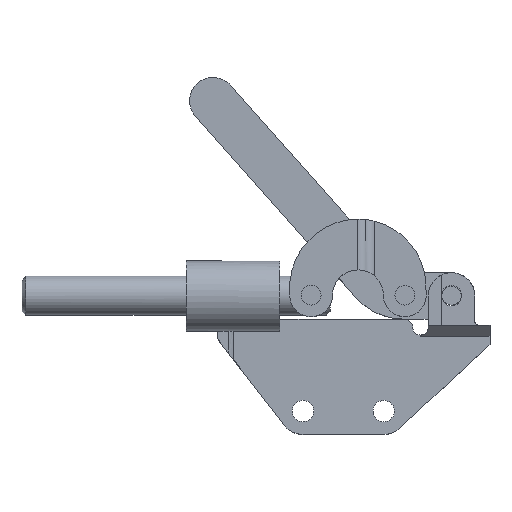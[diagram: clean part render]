
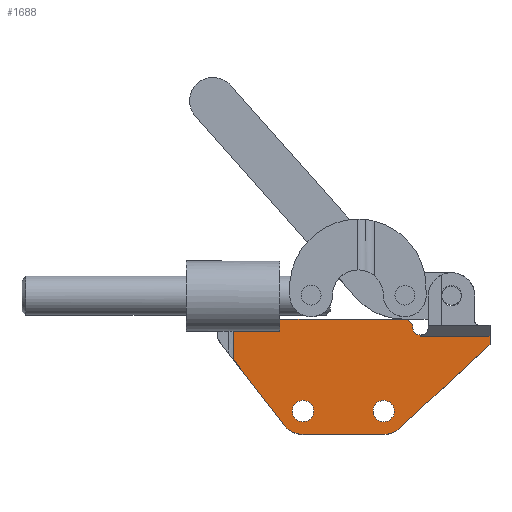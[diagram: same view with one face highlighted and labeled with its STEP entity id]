
A CAD part, top view. The second image highlights one B-rep face of the part: STEP entity #1688.
In plain terms, the highlighted planar face has unit normal (0, 0, 1).
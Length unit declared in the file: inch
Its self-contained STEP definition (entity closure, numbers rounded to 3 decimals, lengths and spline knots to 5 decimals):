
#716=CARTESIAN_POINT('',(15.95154,8.86476,-0.25334));
#717=VERTEX_POINT('',#716);
#727=CARTESIAN_POINT('',(15.94884,8.86476,-0.25334));
#728=VERTEX_POINT('',#727);
#735=CARTESIAN_POINT('',(15.94884,8.86476,-0.25334));
#736=DIRECTION('',(1.0,0.0,0.0));
#737=VECTOR('',#736,0.0027);
#738=LINE('',#735,#737);
#739=EDGE_CURVE('',#728,#717,#738,.T.);
#749=CARTESIAN_POINT('',(16.42442,8.44666,-0.25334));
#750=VERTEX_POINT('',#749);
#751=CARTESIAN_POINT('',(16.51036,8.44666,-0.25334));
#752=DIRECTION('',(0.0,0.0,1.0));
#753=DIRECTION('',(0.0,-1.0,0.0));
#754=AXIS2_PLACEMENT_3D('',#751,#752,#753);
#755=CIRCLE('',#754,0.08594);
#756=EDGE_CURVE('',#750,#750,#755,.T.);
#777=CARTESIAN_POINT('',(17.07142,8.44666,-0.25334));
#778=VERTEX_POINT('',#777);
#779=CARTESIAN_POINT('',(17.15736,8.44666,-0.25334));
#780=DIRECTION('',(0.0,0.0,1.0));
#781=DIRECTION('',(0.0,-1.0,0.0));
#782=AXIS2_PLACEMENT_3D('',#779,#780,#781);
#783=CIRCLE('',#782,0.08594);
#784=EDGE_CURVE('',#778,#778,#783,.T.);
#805=CARTESIAN_POINT('',(17.88317,8.86476,-0.25334));
#806=VERTEX_POINT('',#805);
#807=CARTESIAN_POINT('',(17.28494,8.30926,-0.25334));
#808=VERTEX_POINT('',#807);
#809=CARTESIAN_POINT('',(17.88317,8.86476,-0.25334));
#810=DIRECTION('',(-0.733,-0.68,0.0));
#811=VECTOR('',#810,0.81637);
#812=LINE('',#809,#811);
#813=EDGE_CURVE('',#806,#808,#812,.T.);
#845=CARTESIAN_POINT('',(17.15736,8.25916,-0.25334));
#846=VERTEX_POINT('',#845);
#847=CARTESIAN_POINT('',(17.15736,8.44666,-0.25334));
#848=DIRECTION('',(0.0,0.0,-1.0));
#849=DIRECTION('',(0.366,-0.931,0.0));
#850=AXIS2_PLACEMENT_3D('',#847,#848,#849);
#851=CIRCLE('',#850,0.1875);
#852=EDGE_CURVE('',#808,#846,#851,.T.);
#878=CARTESIAN_POINT('',(16.51036,8.25916,-0.25334));
#879=VERTEX_POINT('',#878);
#880=CARTESIAN_POINT('',(17.15736,8.25916,-0.25334));
#881=DIRECTION('',(-1.0,0.0,0.0));
#882=VECTOR('',#881,0.647);
#883=LINE('',#880,#882);
#884=EDGE_CURVE('',#846,#879,#883,.T.);
#909=CARTESIAN_POINT('',(16.36219,8.33175,-0.25334));
#910=VERTEX_POINT('',#909);
#911=CARTESIAN_POINT('',(16.51036,8.44666,-0.25334));
#912=DIRECTION('',(0.0,0.0,-1.0));
#913=DIRECTION('',(-0.44,-0.898,0.0));
#914=AXIS2_PLACEMENT_3D('',#911,#912,#913);
#915=CIRCLE('',#914,0.1875);
#916=EDGE_CURVE('',#879,#910,#915,.T.);
#951=CARTESIAN_POINT('',(17.88322,8.86476,-0.25334));
#952=VERTEX_POINT('',#951);
#959=CARTESIAN_POINT('',(17.88317,8.86476,-0.25334));
#960=DIRECTION('',(1.0,0.0,0.0));
#961=VECTOR('',#960,0.00005);
#962=LINE('',#959,#961);
#963=EDGE_CURVE('',#806,#952,#962,.T.);
#995=CARTESIAN_POINT('',(15.95154,9.08726,-0.25334));
#996=VERTEX_POINT('',#995);
#997=CARTESIAN_POINT('',(15.95154,8.86476,-0.25334));
#998=DIRECTION('',(0.0,1.0,0.0));
#999=VECTOR('',#998,0.2225);
#1000=LINE('',#997,#999);
#1001=EDGE_CURVE('',#717,#996,#1000,.T.);
#1044=CARTESIAN_POINT('',(18.00856,8.98114,-0.25334));
#1045=VERTEX_POINT('',#1044);
#1052=CARTESIAN_POINT('',(18.00856,8.98114,-0.25334));
#1053=DIRECTION('',(-0.733,-0.68,0.));
#1054=VECTOR('',#1053,0.17104);
#1055=LINE('',#1052,#1054);
#1056=EDGE_CURVE('',#1045,#952,#1055,.T.);
#1092=CARTESIAN_POINT('',(18.00856,9.04474,-0.25334));
#1093=VERTEX_POINT('',#1092);
#1100=CARTESIAN_POINT('',(18.00856,9.04474,-0.25334));
#1101=DIRECTION('',(0.0,-1.0,0.0));
#1102=VECTOR('',#1101,0.06359);
#1103=LINE('',#1100,#1102);
#1104=EDGE_CURVE('',#1093,#1045,#1103,.T.);
#1155=CARTESIAN_POINT('',(17.45301,9.04474,-0.25334));
#1156=VERTEX_POINT('',#1155);
#1163=CARTESIAN_POINT('',(18.00856,9.04474,-0.25334));
#1164=DIRECTION('',(-1.0,0.0,0.0));
#1165=VECTOR('',#1164,0.55555);
#1166=LINE('',#1163,#1165);
#1167=EDGE_CURVE('',#1093,#1156,#1166,.T.);
#1255=CARTESIAN_POINT('',(17.91295,9.13463,-0.25334));
#1256=VERTEX_POINT('',#1255);
#1263=CARTESIAN_POINT('',(17.51336,9.13463,-0.25334));
#1264=VERTEX_POINT('',#1263);
#1265=CARTESIAN_POINT('',(17.51336,9.13463,-0.25334));
#1266=DIRECTION('',(1.0,0.0,0.0));
#1267=VECTOR('',#1266,0.39959);
#1268=LINE('',#1265,#1267);
#1269=EDGE_CURVE('',#1264,#1256,#1268,.T.);
#1503=CARTESIAN_POINT('',(16.32476,9.08726,-0.25334));
#1504=VERTEX_POINT('',#1503);
#1505=CARTESIAN_POINT('',(15.95154,9.08726,-0.25334));
#1506=DIRECTION('',(1.0,0.0,0.0));
#1507=VECTOR('',#1506,0.37322);
#1508=LINE('',#1505,#1507);
#1509=EDGE_CURVE('',#996,#1504,#1508,.T.);
#1569=CARTESIAN_POINT('',(15.5432,8.86476,-0.25334));
#1570=DIRECTION('',(0.0,0.0,1.0));
#1571=DIRECTION('',(1.0,0.0,0.0));
#1572=AXIS2_PLACEMENT_3D('',#1569,#1570,#1571);
#1573=PLANE('',#1572);
#1574=ORIENTED_EDGE('',*,*,#1104,.F.);
#1575=ORIENTED_EDGE('',*,*,#1167,.T.);
#1576=CARTESIAN_POINT('',(17.45301,9.05589,-0.25334));
#1577=VERTEX_POINT('',#1576);
#1578=CARTESIAN_POINT('',(17.45301,9.04474,-0.25334));
#1579=DIRECTION('',(0.0,1.0,0.0));
#1580=VECTOR('',#1579,0.01115);
#1581=LINE('',#1578,#1580);
#1582=EDGE_CURVE('',#1156,#1577,#1581,.T.);
#1583=ORIENTED_EDGE('',*,*,#1582,.T.);
#1584=CARTESIAN_POINT('',(17.45301,9.11839,-0.25334));
#1585=DIRECTION('',(0.0,0.0,1.0));
#1586=DIRECTION('',(1.0,0.0,0.0));
#1587=AXIS2_PLACEMENT_3D('',#1584,#1585,#1586);
#1588=CIRCLE('',#1587,0.0625);
#1589=EDGE_CURVE('',#1577,#1264,#1588,.T.);
#1590=ORIENTED_EDGE('',*,*,#1589,.T.);
#1591=ORIENTED_EDGE('',*,*,#1269,.T.);
#1592=CARTESIAN_POINT('',(17.88726,9.16538,-0.25334));
#1593=VERTEX_POINT('',#1592);
#1594=CARTESIAN_POINT('',(17.91851,9.16538,-0.25334));
#1595=DIRECTION('',(0.,0.,1.0));
#1596=DIRECTION('',(-0.707,-0.707,0.));
#1597=AXIS2_PLACEMENT_3D('',#1594,#1595,#1596);
#1598=CIRCLE('',#1597,0.03125);
#1599=EDGE_CURVE('',#1593,#1256,#1598,.T.);
#1600=ORIENTED_EDGE('',*,*,#1599,.F.);
#1601=CARTESIAN_POINT('',(17.88726,9.18101,-0.25334));
#1602=VERTEX_POINT('',#1601);
#1603=CARTESIAN_POINT('',(17.88726,9.18101,-0.25334));
#1604=DIRECTION('',(0.0,-1.0,0.0));
#1605=VECTOR('',#1604,0.01563);
#1606=LINE('',#1603,#1605);
#1607=EDGE_CURVE('',#1602,#1593,#1606,.T.);
#1608=ORIENTED_EDGE('',*,*,#1607,.F.);
#1609=CARTESIAN_POINT('',(17.51326,9.18101,-0.25334));
#1610=VERTEX_POINT('',#1609);
#1611=CARTESIAN_POINT('',(17.51326,9.18101,-0.25334));
#1612=DIRECTION('',(1.0,0.0,0.0));
#1613=VECTOR('',#1612,0.374);
#1614=LINE('',#1611,#1613);
#1615=EDGE_CURVE('',#1610,#1602,#1614,.T.);
#1616=ORIENTED_EDGE('',*,*,#1615,.F.);
#1617=CARTESIAN_POINT('',(17.51326,9.11851,-0.25334));
#1618=VERTEX_POINT('',#1617);
#1619=CARTESIAN_POINT('',(17.51326,9.11851,-0.25334));
#1620=DIRECTION('',(0.0,1.0,0.0));
#1621=VECTOR('',#1620,0.0625);
#1622=LINE('',#1619,#1621);
#1623=EDGE_CURVE('',#1618,#1610,#1622,.T.);
#1624=ORIENTED_EDGE('',*,*,#1623,.F.);
#1625=CARTESIAN_POINT('',(17.38826,9.11851,-0.25334));
#1626=VERTEX_POINT('',#1625);
#1627=CARTESIAN_POINT('',(17.45076,9.11851,-0.25334));
#1628=DIRECTION('',(0.0,0.0,1.0));
#1629=DIRECTION('',(0.0,-1.0,0.0));
#1630=AXIS2_PLACEMENT_3D('',#1627,#1628,#1629);
#1631=CIRCLE('',#1630,0.0625);
#1632=EDGE_CURVE('',#1626,#1618,#1631,.T.);
#1633=ORIENTED_EDGE('',*,*,#1632,.F.);
#1634=CARTESIAN_POINT('',(17.32576,9.18101,-0.25334));
#1635=VERTEX_POINT('',#1634);
#1636=CARTESIAN_POINT('',(17.32576,9.11851,-0.25334));
#1637=DIRECTION('',(0.,0.,-1.0));
#1638=DIRECTION('',(0.707,0.707,0.));
#1639=AXIS2_PLACEMENT_3D('',#1636,#1637,#1638);
#1640=CIRCLE('',#1639,0.0625);
#1641=EDGE_CURVE('',#1635,#1626,#1640,.T.);
#1642=ORIENTED_EDGE('',*,*,#1641,.F.);
#1643=CARTESIAN_POINT('',(16.32476,9.18101,-0.25334));
#1644=VERTEX_POINT('',#1643);
#1645=CARTESIAN_POINT('',(16.32476,9.18101,-0.25334));
#1646=DIRECTION('',(1.0,0.0,0.0));
#1647=VECTOR('',#1646,1.001);
#1648=LINE('',#1645,#1647);
#1649=EDGE_CURVE('',#1644,#1635,#1648,.T.);
#1650=ORIENTED_EDGE('',*,*,#1649,.F.);
#1651=CARTESIAN_POINT('',(16.32476,9.10506,-0.25334));
#1652=VERTEX_POINT('',#1651);
#1653=CARTESIAN_POINT('',(16.32476,9.10506,-0.25334));
#1654=DIRECTION('',(0.0,1.0,0.0));
#1655=VECTOR('',#1654,0.07595);
#1656=LINE('',#1653,#1655);
#1657=EDGE_CURVE('',#1652,#1644,#1656,.T.);
#1658=ORIENTED_EDGE('',*,*,#1657,.F.);
#1659=CARTESIAN_POINT('',(16.32476,9.08726,-0.25334));
#1660=DIRECTION('',(0.0,1.0,0.0));
#1661=VECTOR('',#1660,0.0178);
#1662=LINE('',#1659,#1661);
#1663=EDGE_CURVE('',#1504,#1652,#1662,.T.);
#1664=ORIENTED_EDGE('',*,*,#1663,.F.);
#1665=ORIENTED_EDGE('',*,*,#1509,.F.);
#1666=ORIENTED_EDGE('',*,*,#1001,.F.);
#1667=ORIENTED_EDGE('',*,*,#739,.F.);
#1668=CARTESIAN_POINT('',(16.36219,8.33175,-0.25334));
#1669=DIRECTION('',(-0.613,0.79,0.0));
#1670=VECTOR('',#1669,0.6745);
#1671=LINE('',#1668,#1670);
#1672=EDGE_CURVE('',#910,#728,#1671,.T.);
#1673=ORIENTED_EDGE('',*,*,#1672,.F.);
#1674=ORIENTED_EDGE('',*,*,#916,.F.);
#1675=ORIENTED_EDGE('',*,*,#884,.F.);
#1676=ORIENTED_EDGE('',*,*,#852,.F.);
#1677=ORIENTED_EDGE('',*,*,#813,.F.);
#1678=ORIENTED_EDGE('',*,*,#963,.T.);
#1679=ORIENTED_EDGE('',*,*,#1056,.F.);
#1680=EDGE_LOOP('',(#1574,#1575,#1583,#1590,#1591,#1600,#1608,#1616,#1624,#1633,#1642,#1650,#1658,#1664,#1665,#1666,#1667,#1673,#1674,#1675,#1676,#1677,#1678,#1679));
#1681=FACE_OUTER_BOUND('',#1680,.T.);
#1682=ORIENTED_EDGE('',*,*,#756,.F.);
#1683=EDGE_LOOP('',(#1682));
#1684=FACE_BOUND('',#1683,.T.);
#1685=ORIENTED_EDGE('',*,*,#784,.F.);
#1686=EDGE_LOOP('',(#1685));
#1687=FACE_BOUND('',#1686,.T.);
#1688=ADVANCED_FACE('',(#1681,#1684,#1687),#1573,.T.);
